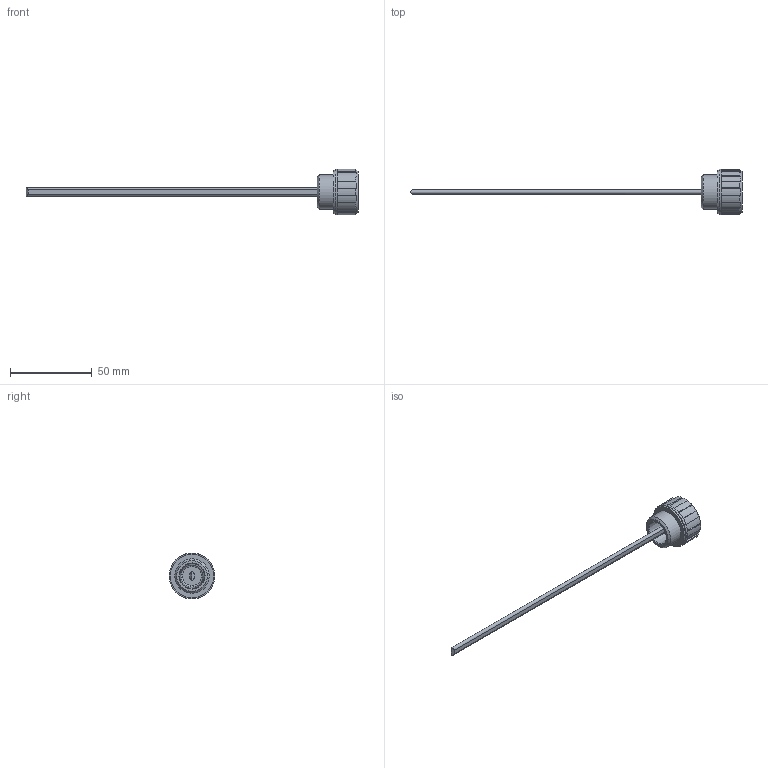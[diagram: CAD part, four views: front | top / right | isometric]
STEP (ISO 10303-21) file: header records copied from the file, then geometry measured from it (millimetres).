
FILE_DESCRIPTION( ( 'STEP AP203' ), '1' );
FILE_NAME( 'C:/Temp/Ganter_Step_05_03_2020/data/3_5/gn548_1/Plug GN 548.1-G1_2-B.stp', '2020-03-12T13:35:45', ( 'License CC BY-ND 4.0' ), ( 'CADENAS' ), ' ', 'PARTsolutions', ' ' );
FILE_SCHEMA( ( 'CONFIG_CONTROL_DESIGN' ) );
Length unit declared in the file: millimetre
Products named in the file (1): _Plug GN 548.1-G1/2-B
Bounding box: 203 x 28 x 28 mm (x, y, z)
Volume: 11053.4 mm3; surface area: 6875.5 mm2
Topology: 1 solids, 1 shells, 62 faces, 160 edges, 106 vertices
Faces by surface type: plane 31, cylinder 26, cone 3, torus 2
Full cylindrical faces by diameter (mm): 20.955 x1, 25.455 x1, 26.6 x1, 28 x1
Entity records: 1909 total; most frequent: CARTESIAN_POINT 376, DIRECTION 315, ORIENTED_EDGE 298, EDGE_CURVE 149, AXIS2_PLACEMENT_3D 123, VERTEX_POINT 104, EDGE_LOOP 77, LINE 69
